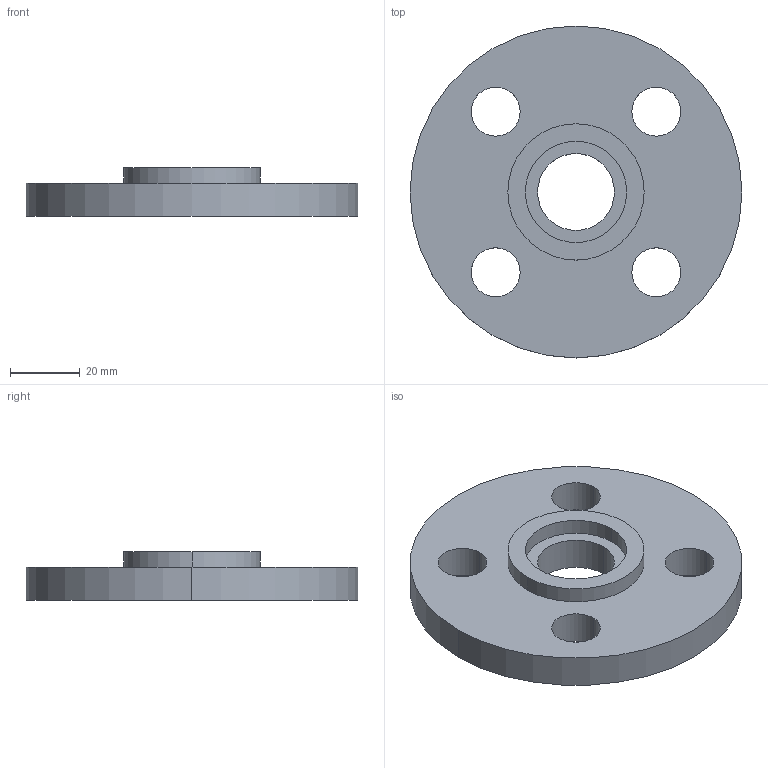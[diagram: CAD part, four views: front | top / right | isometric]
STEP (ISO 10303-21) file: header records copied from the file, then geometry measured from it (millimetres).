
FILE_DESCRIPTION (( 'STEP AP214' ), '1' );
FILE_NAME ('PN40 DN15 Type 01 - Type C Face.STEP', '2018-12-29T15:12:35', ( '' ), ( '' ), 'SwSTEP 2.0', 'SolidWorks 2019', '' );
FILE_SCHEMA (( 'AUTOMOTIVE_DESIGN' ));
Length unit declared in the file: millimetre
Products named in the file (1): PN40 DN15 Type 01 - Type C Face
Bounding box: 95 x 95 x 14 mm (x, y, z)
Volume: 60280.5 mm3; surface area: 18309.2 mm2
Topology: 1 solids, 1 shells, 20 faces, 48 edges, 32 vertices
Faces by surface type: cylinder 16, plane 4
Entity records: 658 total; most frequent: DIRECTION 122, CARTESIAN_POINT 101, ORIENTED_EDGE 96, AXIS2_PLACEMENT_3D 53, EDGE_CURVE 48, CIRCLE 32, VERTEX_POINT 32, EDGE_LOOP 32
